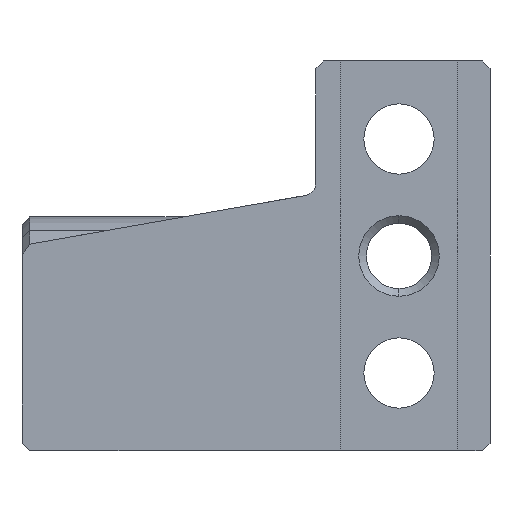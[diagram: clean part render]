
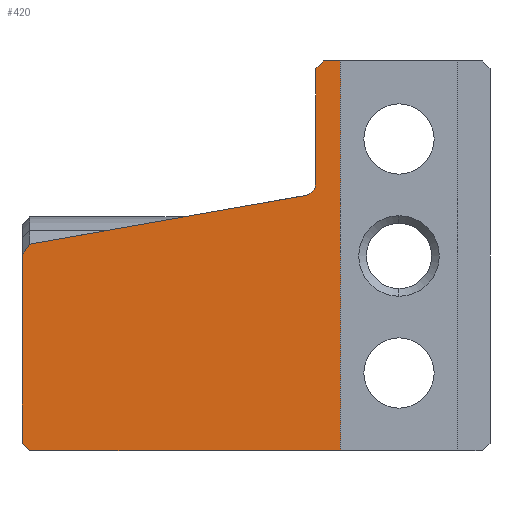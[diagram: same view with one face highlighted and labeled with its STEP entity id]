
A CAD part, front view. The second image highlights one B-rep face of the part: STEP entity #420.
In plain terms, the highlighted planar face has unit normal (0, -1, 0).
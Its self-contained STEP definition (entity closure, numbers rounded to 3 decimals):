
#47 = VERTEX_POINT ( 'NONE', #1332 ) ;
#104 = CARTESIAN_POINT ( 'NONE',  ( -11., 0., 7.53 ) ) ;
#191 = FACE_OUTER_BOUND ( 'NONE', #740, .T. ) ;
#204 = CARTESIAN_POINT ( 'NONE',  ( -11., 0., 15. ) ) ;
#215 = VECTOR ( 'NONE', #2203, 1000. ) ;
#338 = DIRECTION ( 'NONE',  ( 0., 1., 0. ) ) ;
#340 = LINE ( 'NONE', #2070, #900 ) ;
#341 = DIRECTION ( 'NONE',  ( -0.573, 0., -0.82 ) ) ;
#353 = VECTOR ( 'NONE', #1766, 1000. ) ;
#359 = DIRECTION ( 'NONE',  ( 0., 0., 1. ) ) ;
#376 = EDGE_CURVE ( 'NONE', #1896, #698, #508, .T. ) ;
#378 = PLANE ( 'NONE',  #1274 ) ;
#420 = ADVANCED_FACE ( 'NONE', ( #191 ), #378, .F. ) ;
#451 = VERTEX_POINT ( 'NONE', #2218 ) ;
#456 = DIRECTION ( 'NONE',  ( 0.707, 0., -0.707 ) ) ;
#475 = ORIENTED_EDGE ( 'NONE', *, *, #809, .F. ) ;
#487 = CARTESIAN_POINT ( 'NONE',  ( -11., 0., 0.3 ) ) ;
#508 = LINE ( 'NONE', #1631, #627 ) ;
#509 = VERTEX_POINT ( 'NONE', #2137 ) ;
#519 = CARTESIAN_POINT ( 'NONE',  ( 0.6, 0., 15. ) ) ;
#523 = VERTEX_POINT ( 'NONE', #2161 ) ;
#536 = EDGE_CURVE ( 'NONE', #1804, #523, #2234, .T. ) ;
#546 = ORIENTED_EDGE ( 'NONE', *, *, #2320, .F. ) ;
#607 = DIRECTION ( 'NONE',  ( 0., 1., 0. ) ) ;
#627 = VECTOR ( 'NONE', #1620, 1000. ) ;
#628 = CARTESIAN_POINT ( 'NONE',  ( 0.3, 0., 14.7 ) ) ;
#662 = CARTESIAN_POINT ( 'NONE',  ( 0.3, 0., 9.9 ) ) ;
#664 = CARTESIAN_POINT ( 'NONE',  ( 0.6, 0., 15. ) ) ;
#698 = VERTEX_POINT ( 'NONE', #1819 ) ;
#740 = EDGE_LOOP ( 'NONE', ( #1782, #2237, #475, #952, #1401, #1831, #546, #996, #1450, #1891 ) ) ;
#762 = LINE ( 'NONE', #104, #1593 ) ;
#803 = CARTESIAN_POINT ( 'NONE',  ( -11., 0., 0.3 ) ) ;
#809 = EDGE_CURVE ( 'NONE', #2027, #2020, #1756, .T. ) ;
#867 = LINE ( 'NONE', #664, #1706 ) ;
#874 = EDGE_CURVE ( 'NONE', #509, #2020, #762, .T. ) ;
#900 = VECTOR ( 'NONE', #2248, 1000. ) ;
#952 = ORIENTED_EDGE ( 'NONE', *, *, #1922, .T. ) ;
#996 = ORIENTED_EDGE ( 'NONE', *, *, #1387, .T. ) ;
#1094 = VERTEX_POINT ( 'NONE', #519 ) ;
#1140 = EDGE_CURVE ( 'NONE', #47, #698, #1675, .T. ) ;
#1153 = DIRECTION ( 'NONE',  ( -0.707, 0., -0.707 ) ) ;
#1205 = CARTESIAN_POINT ( 'NONE',  ( 0., 0., 15. ) ) ;
#1274 = AXIS2_PLACEMENT_3D ( 'NONE', #1205, #338, #359 ) ;
#1332 = CARTESIAN_POINT ( 'NONE',  ( 1.25, 0., 15. ) ) ;
#1337 = VECTOR ( 'NONE', #1668, 1000. ) ;
#1349 = CARTESIAN_POINT ( 'NONE',  ( -11., 0., 7.53 ) ) ;
#1387 = EDGE_CURVE ( 'NONE', #1094, #1804, #867, .T. ) ;
#1401 = ORIENTED_EDGE ( 'NONE', *, *, #376, .T. ) ;
#1421 = CIRCLE ( 'NONE', #2241, 0.5 ) ;
#1450 = ORIENTED_EDGE ( 'NONE', *, *, #536, .T. ) ;
#1593 = VECTOR ( 'NONE', #341, 1000. ) ;
#1608 = CARTESIAN_POINT ( 'NONE',  ( -0.2, 0., 10.319 ) ) ;
#1620 = DIRECTION ( 'NONE',  ( 1., 0., 0. ) ) ;
#1631 = CARTESIAN_POINT ( 'NONE',  ( 0., 0., 0. ) ) ;
#1667 = EDGE_CURVE ( 'NONE', #523, #451, #1421, .T. ) ;
#1668 = DIRECTION ( 'NONE',  ( -0.985, 0., -0.174 ) ) ;
#1675 = LINE ( 'NONE', #2036, #215 ) ;
#1706 = VECTOR ( 'NONE', #1153, 1000. ) ;
#1756 = LINE ( 'NONE', #204, #353 ) ;
#1766 = DIRECTION ( 'NONE',  ( 0., 0., 1. ) ) ;
#1777 = DIRECTION ( 'NONE',  ( 0., 0., 1. ) ) ;
#1779 = VECTOR ( 'NONE', #2080, 1000. ) ;
#1782 = ORIENTED_EDGE ( 'NONE', *, *, #1981, .T. ) ;
#1804 = VERTEX_POINT ( 'NONE', #628 ) ;
#1819 = CARTESIAN_POINT ( 'NONE',  ( 1.25, 0., 0. ) ) ;
#1820 = LINE ( 'NONE', #662, #1337 ) ;
#1831 = ORIENTED_EDGE ( 'NONE', *, *, #1140, .F. ) ;
#1882 = VECTOR ( 'NONE', #456, 1000. ) ;
#1891 = ORIENTED_EDGE ( 'NONE', *, *, #1667, .T. ) ;
#1896 = VERTEX_POINT ( 'NONE', #2140 ) ;
#1922 = EDGE_CURVE ( 'NONE', #2027, #1896, #1928, .T. ) ;
#1928 = LINE ( 'NONE', #803, #1882 ) ;
#1981 = EDGE_CURVE ( 'NONE', #451, #509, #1820, .T. ) ;
#2020 = VERTEX_POINT ( 'NONE', #1349 ) ;
#2027 = VERTEX_POINT ( 'NONE', #487 ) ;
#2036 = CARTESIAN_POINT ( 'NONE',  ( 1.25, 0., 15. ) ) ;
#2070 = CARTESIAN_POINT ( 'NONE',  ( 0., 0., 15. ) ) ;
#2080 = DIRECTION ( 'NONE',  ( 0., 0., -1. ) ) ;
#2099 = CARTESIAN_POINT ( 'NONE',  ( 0.3, 0., 15. ) ) ;
#2137 = CARTESIAN_POINT ( 'NONE',  ( -10.705, 0., 7.952 ) ) ;
#2140 = CARTESIAN_POINT ( 'NONE',  ( -10.7, 0., 0. ) ) ;
#2161 = CARTESIAN_POINT ( 'NONE',  ( 0.3, 0., 10.319 ) ) ;
#2203 = DIRECTION ( 'NONE',  ( 0., 0., -1. ) ) ;
#2218 = CARTESIAN_POINT ( 'NONE',  ( -0.113, 0., 9.827 ) ) ;
#2234 = LINE ( 'NONE', #2099, #1779 ) ;
#2237 = ORIENTED_EDGE ( 'NONE', *, *, #874, .T. ) ;
#2241 = AXIS2_PLACEMENT_3D ( 'NONE', #1608, #607, #1777 ) ;
#2248 = DIRECTION ( 'NONE',  ( 1., 0., 0. ) ) ;
#2320 = EDGE_CURVE ( 'NONE', #1094, #47, #340, .T. ) ;
